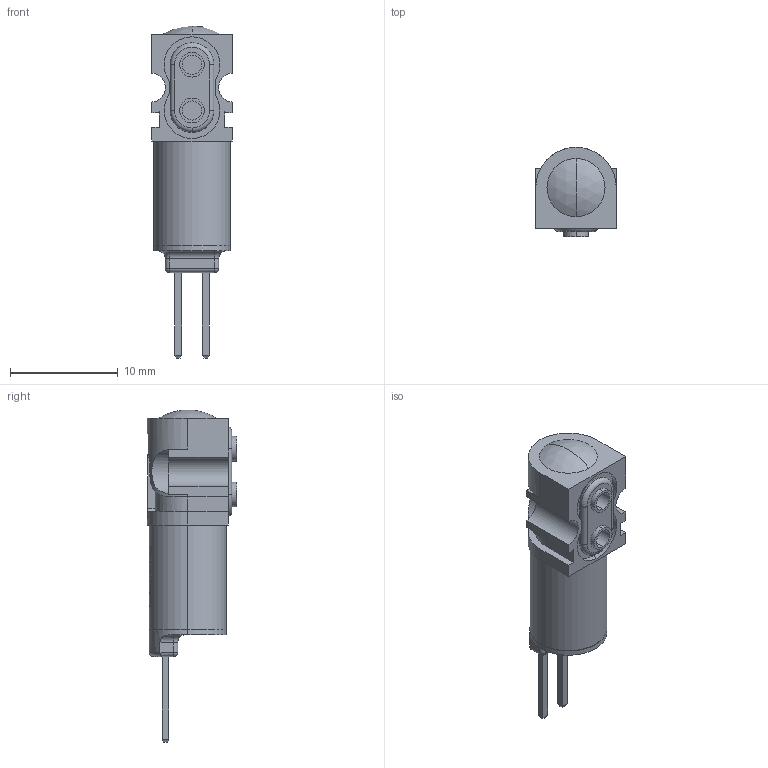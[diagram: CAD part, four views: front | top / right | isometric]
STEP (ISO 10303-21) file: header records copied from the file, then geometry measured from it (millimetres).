
FILE_DESCRIPTION (( 'STEP AP214' ), '1' );
FILE_NAME ('Lee-LHL_Series-2-Port-Face_Mount-CAD_Model A1.step', '2021-03-02T13:12:28', ( '' ), ( '' ), 'SwSTEP 2.0', 'SolidWorks 2019', '' );
FILE_SCHEMA (( 'AUTOMOTIVE_DESIGN' ));
Length unit declared in the file: inch
Products named in the file (1): Lee-LHL_Series-2-Port-Face_Mount-CAD_Model A1
Bounding box: 7.47 x 8.27 x 30.78 mm (x, y, z)
Volume: 876.7 mm3; surface area: 833.8 mm2
Topology: 4 solids, 4 shells, 636 faces, 1678 edges, 1108 vertices
Faces by surface type: bspline 283, plane 237, cylinder 103, torus 9, sphere 4
Entity records: 28015 total; most frequent: CARTESIAN_POINT 14181, ORIENTED_EDGE 3352, DIRECTION 1747, EDGE_CURVE 1676, VERTEX_POINT 1108, B_SPLINE_CURVE_WITH_KNOTS 919, EDGE_LOOP 700, ADVANCED_FACE 636
